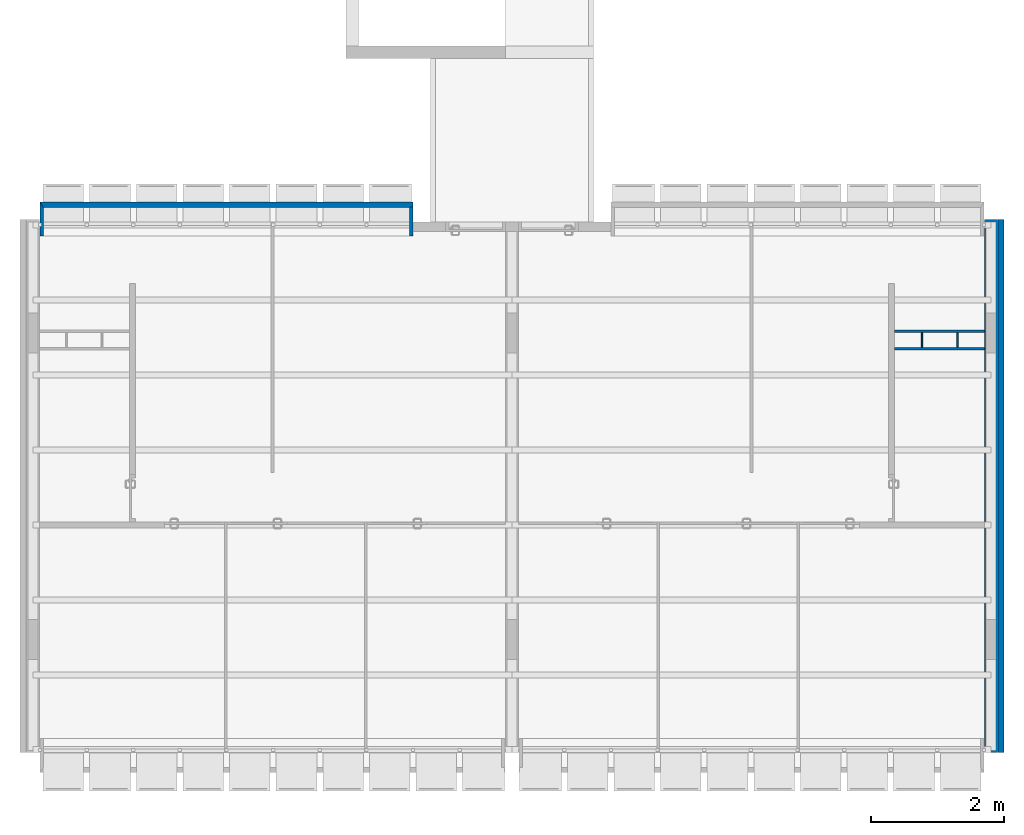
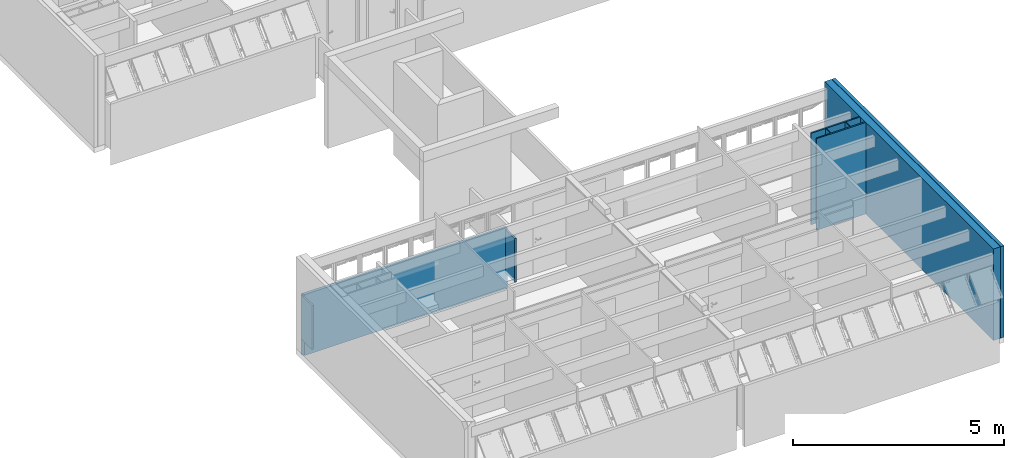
# One storey, part 26 of 40: 9 walls.
"""IFC4 building model written with IfcOpenShell, lengths in millimetres."""

from ifc_helpers import new_model, entity, si_unit, converted_unit, derived_unit, direction, frame, origin_with_axes, place, context, subcontext, project, spatial, line, indexed_curve, outline, extrude, material, layer, layer_set, layer_usage, type_object, element, save


model = new_model("IFC4")

# Units and contexts
model_context = context("Model", 3, precision=0.01, world=origin_with_axes(), true_north=direction((0.0, 1.0)))
body_context = subcontext(model_context, "Body", "Model", "MODEL_VIEW")
ifc_project = project(units=[si_unit("LENGTHUNIT", "METRE", prefix="MILLI"), si_unit("AREAUNIT", "SQUARE_METRE"), si_unit("VOLUMEUNIT", "CUBIC_METRE"), converted_unit("PLANEANGLEUNIT", "DEGREE", entity("IfcPlaneAngleMeasure", 0.0174532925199), si_unit("PLANEANGLEUNIT", "RADIAN"), dimensions=[0, 0, 0, 0, 0, 0, 0]), converted_unit("TIMEUNIT", "Year", entity("IfcTimeMeasure", 31556926.0), si_unit("TIMEUNIT", "SECOND"), dimensions=[0, 0, 1, 0, 0, 0, 0]), si_unit("MASSUNIT", "GRAM", prefix="KILO"), si_unit("THERMODYNAMICTEMPERATUREUNIT", "DEGREE_CELSIUS"), si_unit("LUMINOUSINTENSITYUNIT", "LUMEN"), si_unit("ENERGYUNIT", "JOULE", prefix="MEGA"), derived_unit("THERMALCONDUCTANCEUNIT", [(si_unit("POWERUNIT", "WATT"), 1), (si_unit("LENGTHUNIT", "METRE"), -1), (si_unit("THERMODYNAMICTEMPERATUREUNIT", "KELVIN"), -1)]), derived_unit("SPECIFICHEATCAPACITYUNIT", [(si_unit("ENERGYUNIT", "JOULE"), 1), (si_unit("MASSUNIT", "GRAM", prefix="KILO"), -1), (si_unit("THERMODYNAMICTEMPERATUREUNIT", "KELVIN"), -1)]), derived_unit("MASSDENSITYUNIT", [(si_unit("MASSUNIT", "GRAM", prefix="KILO"), 1), (si_unit("VOLUMEUNIT", "CUBIC_METRE"), -1)])], contexts=[model_context])

# Site, building, storey
site_placement = place(None, origin_with_axes())
site = spatial("IfcSite", under=ifc_project, at=site_placement, Name="Local", CompositionType="ELEMENT")
building_placement = place(site_placement, origin_with_axes())
building = spatial("IfcBuilding", under=site, at=building_placement, Name="Construção", CompositionType="ELEMENT")
storey_placement = place(building_placement, frame((0.0, 0.0, 5300.0), z_axis=(0.0, 0.0, 1.0), x_axis=(1.0, 0.0, 0.0)))
storey = spatial("IfcBuildingStorey", under=building, at=storey_placement, Name="Terceiro Pavimento", CompositionType="ELEMENT", Elevation=5300.0)

# Walls
ifc_material_1 = material(Name="GENÉRICO - VEDAÇÃO EXTERNA")
ifc_layer_1 = layer(ifc_material_1, 190.0, ventilated="UNKNOWN", Name="GENÉRICO - VEDAÇÃO EXTERNA")
ifc_layer_set_1 = layer_set([ifc_layer_1], Name="GENÉRICO - VEDAÇÃO EXTERNA 190")
ifc_layer_usage_1 = layer_usage(ifc_layer_set_1, "AXIS2", "POSITIVE", 0.0)
wall_type_1 = type_object("IfcWallType", Name="GENÉRICO - VEDAÇÃO EXTERNA 190", PredefinedType="NOTDEFINED")
wall_1_placement = place(storey_placement, frame((14480.0, 8300.0, 0.0), z_axis=(0.0, 0.0, 1.0), x_axis=(0.0, -1.0, 0.0)))
element("IfcWall", 1, at=wall_1_placement, inside=storey, type_object=wall_type_1, material=ifc_layer_usage_1, Name="APTO10-PAREDE-013", PredefinedType="NOTDEFINED", context=body_context, shape_type="SweptSolid", body=[
    extrude(outline(indexed_curve([(0.0, 0.0), (8000.0, 0.0), (8000.0, 190.0), (0.0, 190.0)], segments=[line(1, 2, 3, 4, 1)])), origin_with_axes(), (0.0, 0.0, 1.0), 2650.0),
])
ifc_layer_2 = layer(ifc_material_1, 40.0, ventilated="UNKNOWN", Name="GENÉRICO - VEDAÇÃO EXTERNA")
ifc_layer_set_2 = layer_set([ifc_layer_2], Name="GENÉRICO - VEDAÇÃO EXTERNA 40")
ifc_layer_usage_2 = layer_usage(ifc_layer_set_2, "AXIS2", "POSITIVE", -40.0)
wall_type_2 = type_object("IfcWallType", Name="GENÉRICO - VEDAÇÃO EXTERNA 40", PredefinedType="NOTDEFINED")
wall_2_placement = place(storey_placement, frame((14480.0, 6345.0, 0.0), z_axis=(0.0, 0.0, 1.0), x_axis=(-1.0, 0.0, 0.0)))
element("IfcWall", 2, at=wall_2_placement, inside=storey, type_object=wall_type_2, material=ifc_layer_usage_2, Name="APTO10-PAREDE-011", PredefinedType="NOTDEFINED", context=body_context, shape_type="SweptSolid", body=[
    extrude(outline(indexed_curve([(0.0, -40.0), (1350.0, -40.0), (1350.0, 0.0), (0.0, 0.0)], segments=[line(1, 2, 3, 4, 1)])), origin_with_axes(), (0.0, 0.0, 1.0), 2650.0),
])
ifc_layer_usage_3 = layer_usage(ifc_layer_set_2, "AXIS2", "POSITIVE", -40.0)
wall_3_placement = place(storey_placement, frame((13040.0, 6645.0, 0.0), z_axis=(0.0, 0.0, 1.0), x_axis=(1.0, 0.0, 0.0)))
element("IfcWall", 3, at=wall_3_placement, inside=storey, type_object=wall_type_2, material=ifc_layer_usage_3, Name="APTO10-PAREDE-010", PredefinedType="NOTDEFINED", context=body_context, shape_type="SweptSolid", body=[
    extrude(outline(indexed_curve([(90.0, -40.0), (1440.0, -40.0), (1440.0, 0.0), (90.0, 0.0)], segments=[line(1, 2, 3, 4, 1)])), origin_with_axes(), (0.0, 0.0, 1.0), 2650.0),
])
ifc_layer_3 = layer(ifc_material_1, 90.0, ventilated="UNKNOWN", Name="GENÉRICO - VEDAÇÃO EXTERNA")
ifc_layer_set_3 = layer_set([ifc_layer_3], Name="GENÉRICO - VEDAÇÃO EXTERNA 90")
ifc_layer_usage_4 = layer_usage(ifc_layer_set_3, "AXIS2", "POSITIVE", 0.0)
wall_type_3 = type_object("IfcWallType", Name="GENÉRICO - VEDAÇÃO EXTERNA 90", PredefinedType="NOTDEFINED")
wall_4_placement = place(storey_placement, frame((14680.0, 8300.0, 0.0), z_axis=(0.0, 0.0, 1.0), x_axis=(0.0, -1.0, 0.0)))
element("IfcWall", 4, at=wall_4_placement, inside=storey, type_object=wall_type_3, material=ifc_layer_usage_4, Name="APTO10-PAREDE-014", PredefinedType="NOTDEFINED", context=body_context, shape_type="SweptSolid", body=[
    extrude(outline(indexed_curve([(0.0, 0.0), (8000.0, 0.0), (8000.0, 90.0), (0.0, 90.0)], segments=[line(1, 2, 3, 4, 1)])), origin_with_axes(), (0.0, 0.0, 1.0), 2650.0),
])
ifc_material_2 = material(Name="Concreto Armado Moldado in Loco - Estrutural")
ifc_layer_4 = layer(ifc_material_2, 50.0, ventilated="UNKNOWN", Name="Concreto Armado Moldado in Loco - Estrutural")
ifc_layer_set_4 = layer_set([ifc_layer_4], Name="Concreto Armado Moldado in Loco - Estrutural 50")
ifc_layer_usage_5 = layer_usage(ifc_layer_set_4, "AXIS2", "POSITIVE", -50.0)
wall_type_4 = type_object("IfcWallType", Name="Concreto Armado Moldado in Loco - Estrutural 50", PredefinedType="NOTDEFINED")
wall_5_placement = place(storey_placement, frame((5850.0, 8054.99999866, 0.0), z_axis=(0.0, 0.0, 1.0), x_axis=(0.0, 1.0, 0.0)))
element("IfcWall", 5, at=wall_5_placement, inside=storey, type_object=wall_type_4, material=ifc_layer_usage_5, Name="APTO9-PAREDE-016", PredefinedType="NOTDEFINED", context=body_context, shape_type="SweptSolid", body=[
    extrude(outline(indexed_curve([(0.0, -50.0), (435.0, -50.0), (435.0, 0.0), (0.0, 0.0)], segments=[line(1, 2, 3, 4, 1)])), origin_with_axes(), (0.0, 0.0, 1.0), 1270.0),
])
ifc_layer_usage_6 = layer_usage(ifc_layer_set_4, "AXIS2", "POSITIVE", -50.0)
wall_6_placement = place(storey_placement, frame((300.0, 8054.99999866, 0.0), z_axis=(0.0, 0.0, 1.0), x_axis=(0.0, 1.0, 0.0)))
element("IfcWall", 6, at=wall_6_placement, inside=storey, type_object=wall_type_4, material=ifc_layer_usage_6, Name="APTO9-PAREDE-018", PredefinedType="NOTDEFINED", context=body_context, shape_type="SweptSolid", body=[
    extrude(outline(indexed_curve([(0.0, -50.0), (430.0, -50.0), (510.0, 0.0), (0.0, 0.0)], segments=[line(1, 2, 3, 4, 1)])), origin_with_axes(), (0.0, 0.0, 1.0), 1270.0),
])
ifc_layer_5 = layer(ifc_material_1, 20.0, ventilated="UNKNOWN", Name="GENÉRICO - VEDAÇÃO EXTERNA")
ifc_layer_set_5 = layer_set([ifc_layer_5], Name="GENÉRICO - VEDAÇÃO EXTERNA 20")
ifc_layer_usage_7 = layer_usage(ifc_layer_set_5, "AXIS2", "POSITIVE", -20.0)
wall_type_5 = type_object("IfcWallType", Name="GENÉRICO - VEDAÇÃO EXTERNA 20", PredefinedType="NOTDEFINED")
wall_7_placement = place(storey_placement, frame((14060.0, 6345.0, 0.0), z_axis=(0.0, 0.0, 1.0), x_axis=(0.0, 1.0, 0.0)))
element("IfcWall", 7, at=wall_7_placement, inside=storey, type_object=wall_type_5, material=ifc_layer_usage_7, Name="APTO10-PAREDE-009", PredefinedType="NOTDEFINED", context=body_context, shape_type="SweptSolid", body=[
    extrude(outline(indexed_curve([(40.0, -20.0), (260.0, -20.0), (260.0, 0.0), (40.0, 0.0)], segments=[line(1, 2, 3, 4, 1)])), origin_with_axes(), (0.0, 0.0, 1.0), 2650.0),
])
ifc_layer_usage_8 = layer_usage(ifc_layer_set_5, "AXIS2", "POSITIVE", 0.0)
wall_8_placement = place(storey_placement, frame((13530.0, 6645.0, 0.0), z_axis=(0.0, 0.0, 1.0), x_axis=(0.0, -1.0, 0.0)))
element("IfcWall", 8, at=wall_8_placement, inside=storey, type_object=wall_type_5, material=ifc_layer_usage_8, Name="APTO10-PAREDE-008", PredefinedType="NOTDEFINED", context=body_context, shape_type="SweptSolid", body=[
    extrude(outline(indexed_curve([(40.0, 0.0), (260.0, 0.0), (260.0, 20.0), (40.0, 20.0)], segments=[line(1, 2, 3, 4, 1)])), origin_with_axes(), (0.0, 0.0, 1.0), 2650.0),
])
ifc_layer_6 = layer(ifc_material_2, 80.0, ventilated="UNKNOWN", Name="Concreto Armado Moldado in Loco - Estrutural")
ifc_layer_set_6 = layer_set([ifc_layer_6], Name="Concreto Armado Moldado in Loco - Estrutural 80")
ifc_layer_usage_9 = layer_usage(ifc_layer_set_6, "AXIS2", "NEGATIVE", 80.0)
wall_type_6 = type_object("IfcWallType", Name="Concreto Armado Moldado in Loco - Estrutural 80", PredefinedType="NOTDEFINED")
wall_9_placement = place(storey_placement, frame((300.0, 8484.99999866, -450.0), z_axis=(0.0, 0.0, 1.0), x_axis=(1.0, 0.0, 0.0)))
element("IfcWall", 9, at=wall_9_placement, inside=storey, type_object=wall_type_6, material=ifc_layer_usage_9, Name="APTO9-PAREDE-017", PredefinedType="NOTDEFINED", context=body_context, shape_type="SweptSolid", body=[
    extrude(outline(indexed_curve([(50.0, 0.0), (5600.0, 0.0), (5600.0, 80.0), (0.0, 80.0)], segments=[line(1, 2, 3, 4, 1)])), origin_with_axes(), (0.0, 0.0, 1.0), 1765.0),
])

save(model, "model.ifc")
